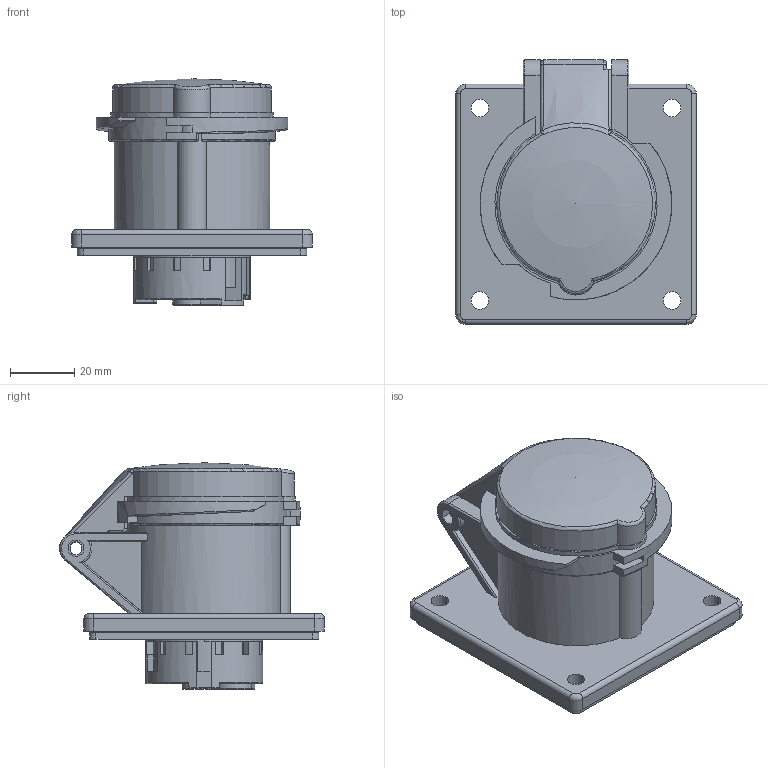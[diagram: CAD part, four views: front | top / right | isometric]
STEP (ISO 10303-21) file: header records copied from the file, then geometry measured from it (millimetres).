
FILE_DESCRIPTION(('FreeCAD Model'),'2;1');
FILE_NAME('Open CASCADE Shape Model','2026-02-04T10:14:43',(''),(''), 'Open CASCADE STEP processor 7.8','FreeCAD','Unknown');
FILE_SCHEMA(('AUTOMOTIVE_DESIGN { 1 0 10303 214 1 1 1 1 }'));
Length unit declared in the file: millimetre
Products named in the file (5): TL3R16432; Terminais; Tomada; Tampa; Base interna
Assembly tree (4 placements, depth 2):
  TL3R16432
    Terminais
    Tomada
    Tampa
    Base interna
Bounding box: 75 x 82.61 x 70.6 mm (x, y, z)
Volume: 145668.1 mm3; surface area: 55250.3 mm2
Topology: 4 solids, 46 shells, 814 faces, 2021 edges, 1316 vertices
Faces by surface type: plane 454, cylinder 243, bspline 39, torus 34, sphere 32, cone 12
Full cylindrical faces by diameter (mm): 7.5 x1
Entity records: 26829 total; most frequent: CARTESIAN_POINT 7156, DIRECTION 4113, ORIENTED_EDGE 4040, EDGE_CURVE 2020, AXIS2_PLACEMENT_3D 1477, VERTEX_POINT 1316, LINE 1159, VECTOR 1159
